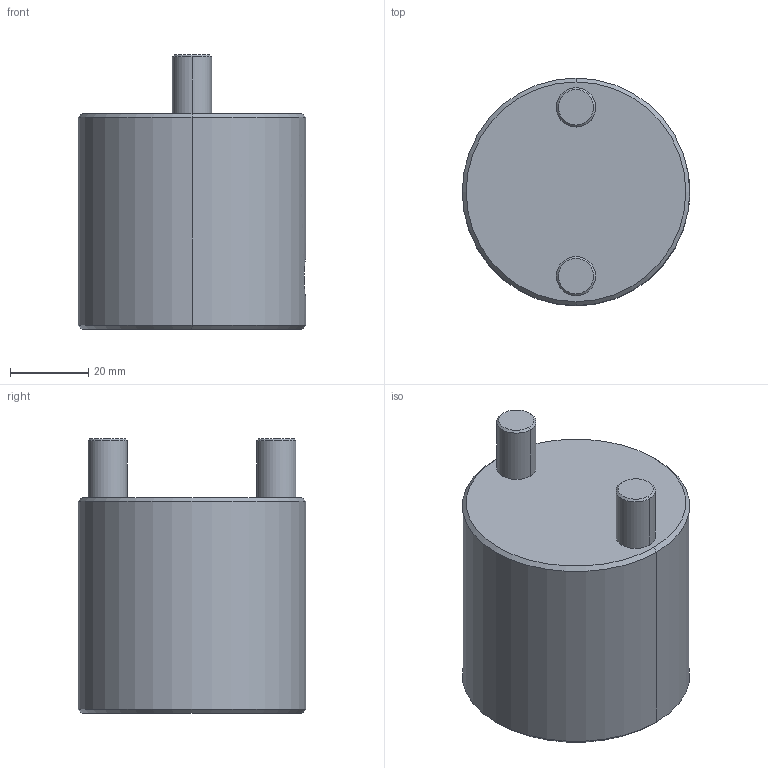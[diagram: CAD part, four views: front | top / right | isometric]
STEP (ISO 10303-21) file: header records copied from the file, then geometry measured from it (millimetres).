
FILE_DESCRIPTION((''),'2;1');
FILE_NAME('CS1030','2018-01-21T',('MANU'),(''),'PRO/ENGINEER BY PARAMETRIC TECHNOLOGY CORPORATION, 2012130','PRO/ENGINEER BY PARAMETRIC TECHNOLOGY CORPORATION, 2012130','');
FILE_SCHEMA(('CONFIG_CONTROL_DESIGN'));
Length unit declared in the file: millimetre
Products named in the file (1): CS1030
Bounding box: 58 x 58 x 70 mm (x, y, z)
Volume: 114316.5 mm3; surface area: 20630.2 mm2
Topology: 1 solids, 1 shells, 23 faces, 47 edges, 28 vertices
Faces by surface type: cylinder 10, cone 8, plane 5
Entity records: 759 total; most frequent: CARTESIAN_POINT 224, DIRECTION 109, ORIENTED_EDGE 94, EDGE_CURVE 47, AXIS2_PLACEMENT_3D 45, VERTEX_POINT 28, EDGE_LOOP 27, FACE_OUTER_BOUND 23
